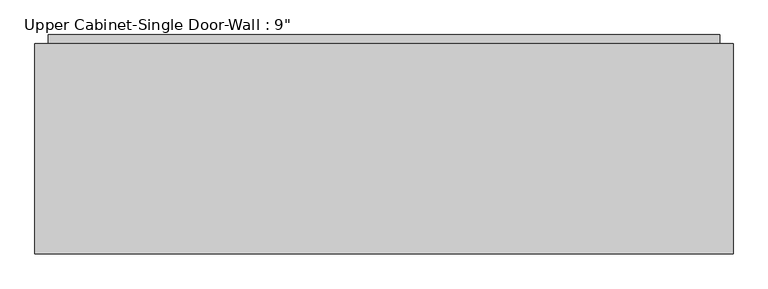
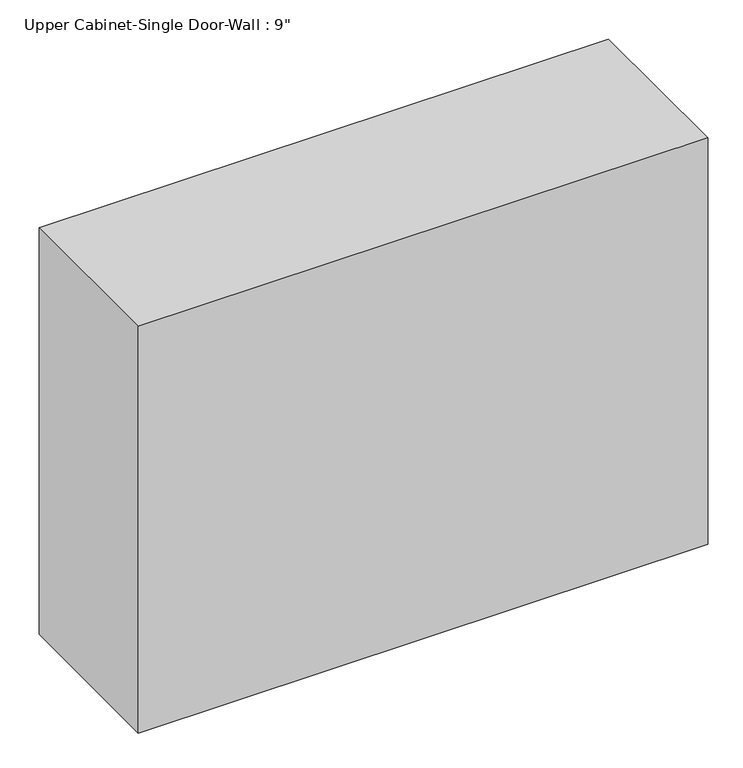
"""IFC4 building model written with IfcOpenShell, lengths in millimetres: furniture geometry."""

from ifc_helpers import new_model, si_unit, frame, origin, place, context, project, spatial, polyline, outline, extrude, faceted_brep, source, transform, mapped, element, save


def furniture_ead23de6(model_context):
    return source(origin(), model_context, "Body", "SolidModel", [
        faceted_brep([(-751.4434462, 82.55, 2133.6), (-751.4434462, 82.55, 1371.6), (258.3711628, 82.55, 1371.6), (258.3711628, 82.55, 2133.6), (-751.4434462, 387.35, 2133.6), (258.3711628, 387.35, 2133.6), (258.3711628, 387.35, 1371.6), (-751.4434462, 387.35, 1371.6), (-732.3934462, 387.35, 2114.55), (-732.3934462, 387.35, 1390.65), (239.3211628, 387.35, 1390.65), (239.3211628, 387.35, 2114.55), (239.3211628, 101.6, 2114.55), (-732.3934462, 101.6, 2114.55), (239.3211628, 101.6, 1390.65), (-732.3934462, 101.6, 1390.65)], [[[0, 1, 2, 3]], [[4, 5, 6, 7], [8, 9, 10, 11]], [[1, 0, 4, 7]], [[2, 1, 7, 6]], [[3, 2, 6, 5]], [[0, 3, 5, 4]], [[8, 11, 12, 13]], [[11, 10, 14, 12]], [[10, 9, 15, 14]], [[9, 8, 13, 15]], [[13, 12, 14, 15]]]),
        extrude(outline(polyline([(-732.3934462, 400.05), (239.3211628, 400.05), (239.3211628, 368.3), (-732.3934462, 368.3), (-732.3934462, 400.05)])), frame((0.0, 0.0, 1390.65), z_axis=(0.0, 0.0, 1.0), x_axis=(1.0, 0.0, 0.0)), (0.0, 0.0, 1.0), 723.9),
    ])


if __name__ == "__main__":
    model = new_model("IFC4")
    model_context = context("Model", 3, world=origin())
    ifc_project = project(units=[si_unit("LENGTHUNIT", "METRE", prefix="MILLI")], contexts=[model_context])
    site = spatial("IfcSite", under=ifc_project)
    building = spatial("IfcBuilding", under=site)
    placement = place(None, origin())
    furniture_shape = furniture_ead23de6(model_context)
    element("IfcFurniture", 1, ObjectType="Upper Cabinet-Single Door-Wall : 9\"", at=placement, inside=building, context=model_context, shape_type="MappedRepresentation", body=[
        mapped(furniture_shape, transform((0.0, 0.0, 0.0), x_axis=(1.0, 0.0, 0.0), y_axis=(0.0, 1.0, 0.0), z_axis=(0.0, 0.0, 1.0))),
    ])
    save(model, "model.ifc")
